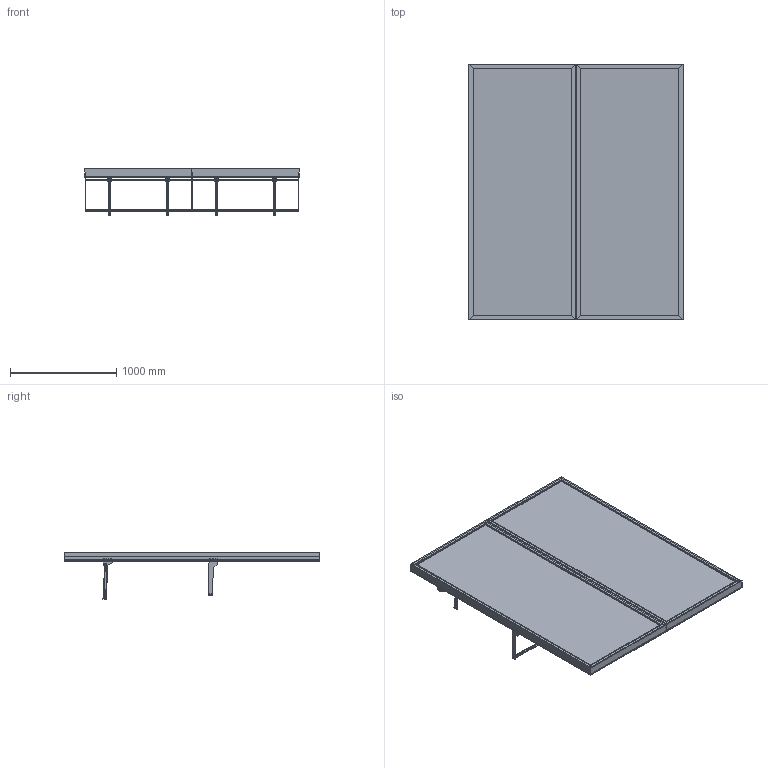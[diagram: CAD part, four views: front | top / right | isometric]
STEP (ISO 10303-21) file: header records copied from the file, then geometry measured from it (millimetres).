
FILE_DESCRIPTION (( 'STEP AP214' ), '1' );
FILE_NAME ('Slotted UpBright? Golf Pro Shop Apparel Wall (Config 5).STEP', '2026-03-30T16:54:22', ( '' ), ( '' ), 'SwSTEP 2.0', 'SolidWorks 2025', '' );
FILE_SCHEMA (( 'AUTOMOTIVE_DESIGN' ));
Length unit declared in the file: millimetre
Products named in the file (12): 0001-31-103; 0001-31-130; 0001-31-SA26 - 1005W Rear support Bar; 0001-31-112; 0001-31-SA27 - Forward Facing Arm; 0001-31-GA10 - 1005W Slotted upbright; 0001-31-SA25 - 1005W Side Facing D Rail; 0001-31-104; 0001-31-131; Slotted UpBright® Golf Pro Shop Apparel Wall (Config 5); 0001-31-100; 0001-31-110
Assembly tree (19 placements, depth 3):
  Slotted UpBright® Golf Pro Shop Apparel Wall (Config 5)
    0001-31-GA10 - 1005W Slotted upbright  x2
    0001-31-SA27 - Forward Facing Arm  x4
      0001-31-104
      0001-31-112
      0001-31-110
    0001-31-SA26 - 1005W Rear support Bar  x2
      0001-31-103
      0001-31-131
    0001-31-SA25 - 1005W Side Facing D Rail  x2
      0001-31-100
      0001-31-130
Bounding box: 2011.48 x 2400 x 436.21 mm (x, y, z)
Volume: 16738777.1 mm3; surface area: 24799224.8 mm2
Topology: 36 solids, 36 shells, 1704 faces, 5784 edges, 3856 vertices
Faces by surface type: plane 1448, cylinder 256
Entity records: 28590 total; most frequent: CARTESIAN_POINT 5417, ORIENTED_EDGE 5202, DIRECTION 4119, EDGE_CURVE 2601, VECTOR 2415, LINE 2415, VERTEX_POINT 1734, EDGE_LOOP 917
